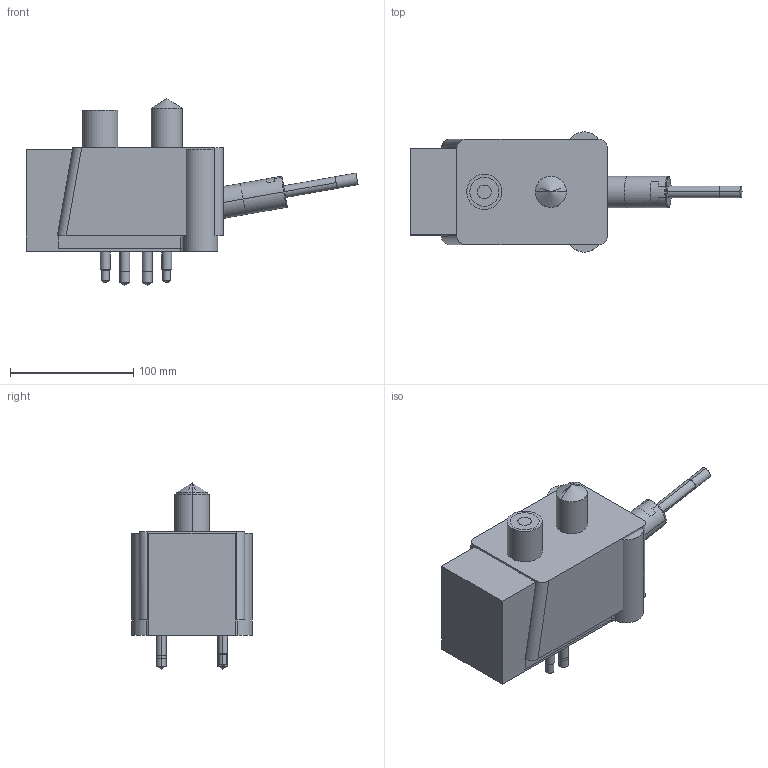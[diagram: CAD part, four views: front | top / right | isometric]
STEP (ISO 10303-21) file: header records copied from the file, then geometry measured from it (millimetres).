
FILE_DESCRIPTION((' '),'2;1');
FILE_NAME( 'EZ-10-P.stp', '2023-11-29T14:30:03', (' '), ('--- Datakit www.datakit.com---'), ' Datakit CrossCadWare V2020.4 Oct 21 2020', 'Export from SolidLink (Hexagon Production Software)', ' ');
FILE_SCHEMA(('AP242_MANAGED_MODEL_BASED_3D_ENGINEERING_MIM_LF { 1 0 10303 442 1 1 4 }'));
Length unit declared in the file: millimetre
Products named in the file (120): Workplanes; 1700579123; 1700578415; 1700502185; 1700502291; 1679421615; 1592309243; 1679421617; 1679421618; 1583173928; 1679421637; 1679421644; 1679421645; 1679421646; 1679421647; 1679421648; 1700836552; 1700836654; 1701286552; 1701286553; 1701286554; 1701286555; 1701286556; 1701286557; 1701286558; 1701286559; 1701286560; 1701286561; 1701286562; 1701286563; 1701286564; 1701286565; 1701286566; 1701286567; 1701286568; 1701286569; 1701286570; 1701286571; 1701286572; 1701286573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
Bounding box: 269.7 x 97.7 x 151.64 mm (x, y, z)
Volume: 2513429.5 mm3; surface area: 227658.7 mm2
Topology: 16 solids, 17 shells, 369 faces, 1053 edges, 929 vertices
Faces by surface type: plane 142, cylinder 125, cone 86, torus 6, revolution 4, sphere 4, bspline 2
Entity records: 16555 total; most frequent: CARTESIAN_POINT 5323, DIRECTION 2297, ORIENTED_EDGE 1660, AXIS2_PLACEMENT_3D 910, EDGE_CURVE 836, VERTEX_POINT 531, VECTOR 473, LINE 473
